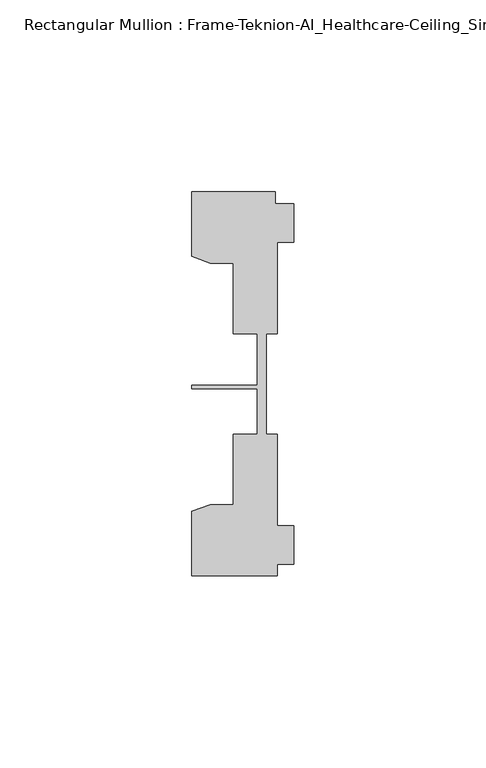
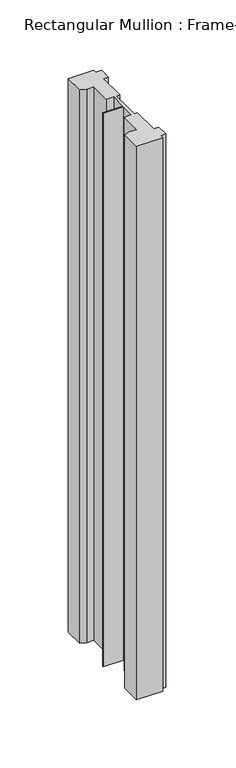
"""IFC4 building model written with IfcOpenShell, lengths in millimetres: member geometry, Rectangular Mullion : Frame-Teknion-AI_Healthcare-Ceiling_Single_Channel."""

from ifc_helpers import new_model, si_unit, frame, origin, place, context, project, spatial, polyline, outline, extrude, source, transform, mapped, element, save


def rectangular_mullion_frame_teknion_ai_healthcare_ceiling_4fe98541(model_context):
    return source(origin(), model_context, "Body", "SweptSolid", [
        extrude(outline(polyline([(-26.4921999, 34.0201677), (-26.4921999, 50.8315128), (-4.7752002, 50.8315128), (-4.7752002, 47.782071), (0.0, 47.782071), (0.0, 37.7820716), (-4.2672007, 37.7820716), (-4.2672007, 13.9110722), (-7.1647766, 13.9110722), (-7.1647766, 0.0814804), (-7.1647766, -12.2509301), (-4.2672007, -12.2509301), (-4.2672007, -36.1219249), (0.0, -36.1219249), (0.0, -46.1219322), (-4.2672007, -46.1219322), (-4.2672007, -49.1699293), (-26.4921999, -49.1699293), (-26.4921999, -32.3600207), (-21.6625199, -30.6279561), (-15.6737764, -30.6279561), (-15.6737764, -12.2509301), (-9.4507761, -12.2509301), (-9.4507761, -0.4036528), (-26.4921999, -0.4036528), (-26.4921999, 0.4036528), (-9.4507761, 0.4036528), (-9.4507761, 13.9110722), (-15.6737764, 13.9110722), (-15.6737764, 32.2880982), (-21.6625199, 32.2880982), (-26.4921999, 34.0201677)])), frame((0.0, 0.0, -495.3), z_axis=(0.0, 0.0, 1.0), x_axis=(1.0, 0.0, 0.0)), (0.0, 0.0, 1.0), 495.3),
    ])


if __name__ == "__main__":
    model = new_model("IFC4")
    model_context = context("Model", 3, world=origin())
    ifc_project = project(units=[si_unit("LENGTHUNIT", "METRE", prefix="MILLI")], contexts=[model_context])
    site = spatial("IfcSite", under=ifc_project)
    building = spatial("IfcBuilding", under=site)
    placement = place(None, origin())
    rectangular_mullion_frame_teknion_ai_healthcare_ceiling_shape = rectangular_mullion_frame_teknion_ai_healthcare_ceiling_4fe98541(model_context)
    element("IfcMember", 1, ObjectType="Rectangular Mullion : Frame-Teknion-AI_Healthcare-Ceiling_Single_Channel", at=placement, inside=building, context=model_context, shape_type="MappedRepresentation", body=[
        mapped(rectangular_mullion_frame_teknion_ai_healthcare_ceiling_shape, transform((0.0, 0.0, 0.0), x_axis=(1.0, 0.0, 0.0), y_axis=(0.0, 1.0, 0.0), z_axis=(0.0, 0.0, 1.0))),
    ])
    save(model, "model.ifc")
